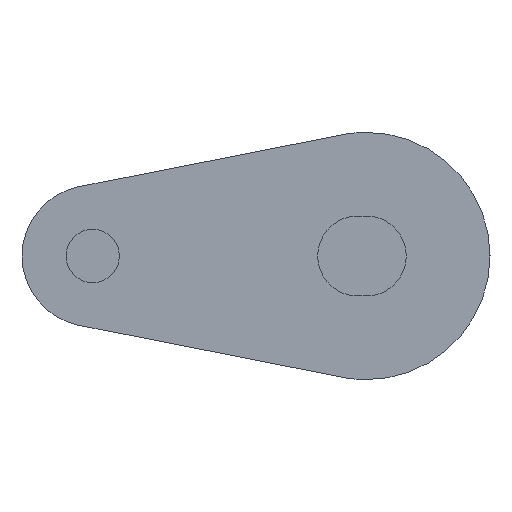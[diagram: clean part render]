
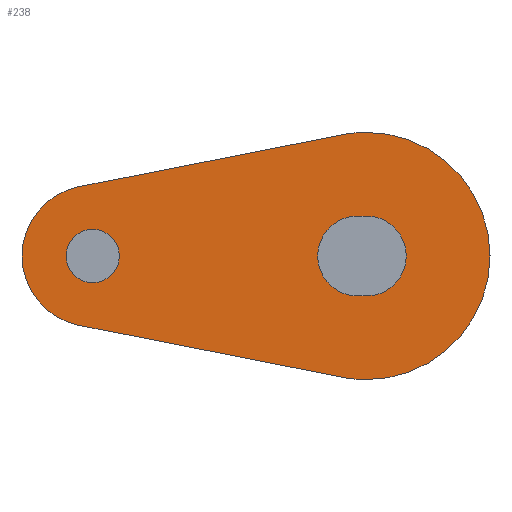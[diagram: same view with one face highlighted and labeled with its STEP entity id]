
A CAD part, left-side view. The second image highlights one B-rep face of the part: STEP entity #238.
In plain terms, the highlighted planar face has unit normal (-1, 0, 0).
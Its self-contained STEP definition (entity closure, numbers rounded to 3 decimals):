
#10 = VECTOR ( 'NONE', #147, 1000. ) ;
#11 = CIRCLE ( 'NONE', #602, 7. ) ;
#15 = CIRCLE ( 'NONE', #543, 1.51 ) ;
#19 = VECTOR ( 'NONE', #170, 1000. ) ;
#20 = LINE ( 'NONE', #166, #19 ) ;
#23 = LINE ( 'NONE', #204, #32 ) ;
#24 = LINE ( 'NONE', #199, #10 ) ;
#32 = VECTOR ( 'NONE', #203, 1000. ) ;
#33 = LINE ( 'NONE', #195, #34 ) ;
#34 = VECTOR ( 'NONE', #194, 1000. ) ;
#66 = CARTESIAN_POINT ( 'NONE',  ( -407.5, 15.5, 0. ) ) ;
#80 = CARTESIAN_POINT ( 'NONE',  ( -407.5, 0.5, 0. ) ) ;
#88 = DIRECTION ( 'NONE',  ( 1., 0., 0. ) ) ;
#105 = DIRECTION ( 'NONE',  ( 0., 0., -1. ) ) ;
#115 = DIRECTION ( 'NONE',  ( 0., 0., -1. ) ) ;
#125 = DIRECTION ( 'NONE',  ( 1., 0., 0. ) ) ;
#126 = DIRECTION ( 'NONE',  ( 0., 0., -1. ) ) ;
#128 = CARTESIAN_POINT ( 'NONE',  ( -407.5, 0., 0. ) ) ;
#133 = CARTESIAN_POINT ( 'NONE',  ( -407.5, 0., 0. ) ) ;
#134 = DIRECTION ( 'NONE',  ( 1., 0., 0. ) ) ;
#135 = DIRECTION ( 'NONE',  ( 0., 0., -1. ) ) ;
#138 = DIRECTION ( 'NONE',  ( 0., 0., -1. ) ) ;
#143 = CARTESIAN_POINT ( 'NONE',  ( -407.5, 0., 0. ) ) ;
#144 = CARTESIAN_POINT ( 'NONE',  ( -407.5, 0., 0. ) ) ;
#147 = DIRECTION ( 'NONE',  ( 0., -1., 0. ) ) ;
#154 = DIRECTION ( 'NONE',  ( 1., 0., 0. ) ) ;
#155 = DIRECTION ( 'NONE',  ( 1., 0., 0. ) ) ;
#157 = DIRECTION ( 'NONE',  ( 0., 0., -1. ) ) ;
#166 = CARTESIAN_POINT ( 'NONE',  ( -407.5, 1.355, -6.868 ) ) ;
#168 = CARTESIAN_POINT ( 'NONE',  ( -407.5, 15.5, 0. ) ) ;
#170 = DIRECTION ( 'NONE',  ( 0., 0.981, 0.194 ) ) ;
#194 = DIRECTION ( 'NONE',  ( 0., -0.981, 0.194 ) ) ;
#195 = CARTESIAN_POINT ( 'NONE',  ( -407.5, 16.274, 3.924 ) ) ;
#196 = DIRECTION ( 'NONE',  ( 0., 0., -1. ) ) ;
#199 = CARTESIAN_POINT ( 'NONE',  ( -407.5, 0.5, 2.26 ) ) ;
#201 = DIRECTION ( 'NONE',  ( 1., 0., 0. ) ) ;
#203 = DIRECTION ( 'NONE',  ( 0., 1., 0. ) ) ;
#204 = CARTESIAN_POINT ( 'NONE',  ( -407.5, 0.5, -2.26 ) ) ;
#218 = DIRECTION ( 'NONE',  ( 1., 0., 0. ) ) ;
#238 = ADVANCED_FACE ( 'NONE', ( #860, #805, #803 ), #510, .T. ) ;
#275 = VERTEX_POINT ( 'NONE', #385 ) ;
#279 = VERTEX_POINT ( 'NONE', #393 ) ;
#284 = VERTEX_POINT ( 'NONE', #384 ) ;
#288 = VERTEX_POINT ( 'NONE', #383 ) ;
#290 = VERTEX_POINT ( 'NONE', #382 ) ;
#293 = DIRECTION ( 'NONE',  ( 0., 0., -1. ) ) ;
#294 = DIRECTION ( 'NONE',  ( 1., 0., 0. ) ) ;
#295 = CARTESIAN_POINT ( 'NONE',  ( -407.5, 15.5, 0. ) ) ;
#330 = CARTESIAN_POINT ( 'NONE',  ( -407.5, 1.355, 6.868 ) ) ;
#338 = CARTESIAN_POINT ( 'NONE',  ( -407.5, 15.5, 1.51 ) ) ;
#340 = CARTESIAN_POINT ( 'NONE',  ( -407.5, 15.5, -1.51 ) ) ;
#348 = CARTESIAN_POINT ( 'NONE',  ( -407.5, 0., 7. ) ) ;
#352 = CARTESIAN_POINT ( 'NONE',  ( -407.5, 0., -7. ) ) ;
#374 = CARTESIAN_POINT ( 'NONE',  ( -407.5, 16.274, -3.924 ) ) ;
#375 = CARTESIAN_POINT ( 'NONE',  ( -407.5, 16.274, 3.924 ) ) ;
#382 = CARTESIAN_POINT ( 'NONE',  ( -407.5, 0.5, -2.26 ) ) ;
#383 = CARTESIAN_POINT ( 'NONE',  ( -407.5, 0.5, 2.26 ) ) ;
#384 = CARTESIAN_POINT ( 'NONE',  ( -407.5, 0., 2.26 ) ) ;
#385 = CARTESIAN_POINT ( 'NONE',  ( -407.5, 1.355, -6.868 ) ) ;
#393 = CARTESIAN_POINT ( 'NONE',  ( -407.5, 0., -2.26 ) ) ;
#432 = VERTEX_POINT ( 'NONE', #375 ) ;
#434 = VERTEX_POINT ( 'NONE', #374 ) ;
#440 = DIRECTION ( 'NONE',  ( 0., 0., -1. ) ) ;
#444 = DIRECTION ( 'NONE',  ( -1., 0., 0. ) ) ;
#448 = CARTESIAN_POINT ( 'NONE',  ( -407.5, 15.5, 0. ) ) ;
#500 = VERTEX_POINT ( 'NONE', #352 ) ;
#505 = VERTEX_POINT ( 'NONE', #348 ) ;
#510 = PLANE ( 'NONE',  #606 ) ;
#522 = VERTEX_POINT ( 'NONE', #340 ) ;
#523 = VERTEX_POINT ( 'NONE', #338 ) ;
#538 = VERTEX_POINT ( 'NONE', #330 ) ;
#543 = AXIS2_PLACEMENT_3D ( 'NONE', #168, #218, #126 ) ;
#559 = AXIS2_PLACEMENT_3D ( 'NONE', #66, #155, #138 ) ;
#560 = EDGE_CURVE ( 'NONE', #522, #523, #727, .T. ) ;
#566 = AXIS2_PLACEMENT_3D ( 'NONE', #80, #88, #115 ) ;
#577 = AXIS2_PLACEMENT_3D ( 'NONE', #295, #294, #293 ) ;
#580 = EDGE_CURVE ( 'NONE', #279, #290, #23, .T. ) ;
#582 = AXIS2_PLACEMENT_3D ( 'NONE', #144, #125, #105 ) ;
#602 = AXIS2_PLACEMENT_3D ( 'NONE', #143, #201, #196 ) ;
#606 = AXIS2_PLACEMENT_3D ( 'NONE', #448, #444, #440 ) ;
#619 = AXIS2_PLACEMENT_3D ( 'NONE', #133, #134, #135 ) ;
#621 = EDGE_CURVE ( 'NONE', #432, #538, #33, .T. ) ;
#623 = AXIS2_PLACEMENT_3D ( 'NONE', #128, #154, #157 ) ;
#629 = EDGE_CURVE ( 'NONE', #275, #434, #20, .T. ) ;
#631 = EDGE_CURVE ( 'NONE', #523, #522, #15, .T. ) ;
#635 = EDGE_CURVE ( 'NONE', #538, #505, #11, .T. ) ;
#637 = EDGE_CURVE ( 'NONE', #288, #284, #24, .T. ) ;
#646 = EDGE_CURVE ( 'NONE', #434, #432, #1064, .T. ) ;
#656 = EDGE_CURVE ( 'NONE', #284, #279, #1054, .T. ) ;
#659 = EDGE_CURVE ( 'NONE', #500, #275, #1052, .T. ) ;
#671 = EDGE_CURVE ( 'NONE', #505, #500, #1048, .T. ) ;
#698 = EDGE_CURVE ( 'NONE', #290, #288, #1026, .T. ) ;
#727 = CIRCLE ( 'NONE', #577, 1.51 ) ;
#803 = FACE_OUTER_BOUND ( 'NONE', #984, .T. ) ;
#805 = FACE_BOUND ( 'NONE', #920, .T. ) ;
#859 = EDGE_LOOP ( 'NONE', ( #935, #940, #941, #992 ) ) ;
#860 = FACE_BOUND ( 'NONE', #859, .T. ) ;
#911 = ORIENTED_EDGE ( 'NONE', *, *, #631, .T. ) ;
#913 = ORIENTED_EDGE ( 'NONE', *, *, #560, .T. ) ;
#920 = EDGE_LOOP ( 'NONE', ( #913, #911 ) ) ;
#927 = ORIENTED_EDGE ( 'NONE', *, *, #671, .F. ) ;
#928 = ORIENTED_EDGE ( 'NONE', *, *, #646, .F. ) ;
#935 = ORIENTED_EDGE ( 'NONE', *, *, #698, .T. ) ;
#940 = ORIENTED_EDGE ( 'NONE', *, *, #637, .T. ) ;
#941 = ORIENTED_EDGE ( 'NONE', *, *, #656, .T. ) ;
#944 = ORIENTED_EDGE ( 'NONE', *, *, #621, .F. ) ;
#948 = ORIENTED_EDGE ( 'NONE', *, *, #659, .F. ) ;
#949 = ORIENTED_EDGE ( 'NONE', *, *, #629, .F. ) ;
#984 = EDGE_LOOP ( 'NONE', ( #928, #949, #948, #927, #1001, #944 ) ) ;
#992 = ORIENTED_EDGE ( 'NONE', *, *, #580, .T. ) ;
#1001 = ORIENTED_EDGE ( 'NONE', *, *, #635, .F. ) ;
#1026 = CIRCLE ( 'NONE', #566, 2.26 ) ;
#1048 = CIRCLE ( 'NONE', #623, 7. ) ;
#1052 = CIRCLE ( 'NONE', #582, 7. ) ;
#1054 = CIRCLE ( 'NONE', #619, 2.26 ) ;
#1064 = CIRCLE ( 'NONE', #559, 4. ) ;
